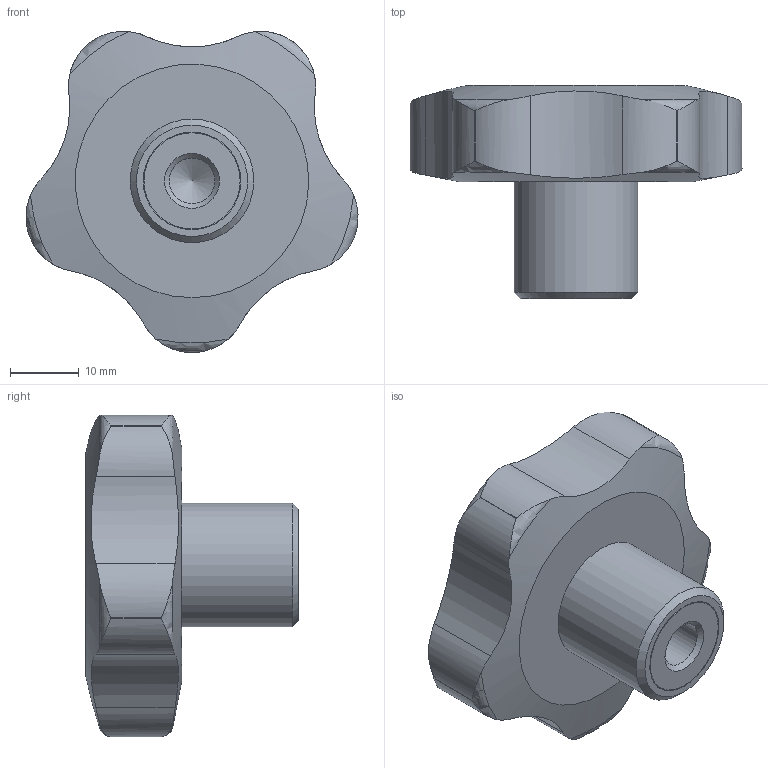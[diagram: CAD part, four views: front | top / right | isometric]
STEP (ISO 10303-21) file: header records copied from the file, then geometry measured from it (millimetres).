
FILE_DESCRIPTION( ( 'STEP AP203' ), '1' );
FILE_NAME( 'C:/Temp/Ganter_Step_05_03_2020/data/2_2/gn_5337_4/gn_5337_4_b/Star knob GN 5337.4-50-M8.stp', '2020-03-05T12:09:34', ( 'License CC BY-ND 4.0' ), ( 'CADENAS' ), ' ', 'PARTsolutions', ' ' );
FILE_SCHEMA( ( 'CONFIG_CONTROL_DESIGN' ) );
Length unit declared in the file: millimetre
Products named in the file (1): _Star knob GN 5337.4-50-M8
Bounding box: 48.33 x 31 x 46.75 mm (x, y, z)
Volume: 23817.1 mm3; surface area: 6239.6 mm2
Topology: 1 solids, 1 shells, 44 faces, 117 edges, 77 vertices
Faces by surface type: cylinder 24, torus 10, cone 4, plane 4, bspline 1, sphere 1
Full cylindrical faces by diameter (mm): 6.647 x1, 14 x1, 14.2 x1, 18 x1
Entity records: 1979 total; most frequent: CARTESIAN_POINT 975, ORIENTED_EDGE 204, DIRECTION 172, EDGE_CURVE 102, AXIS2_PLACEMENT_3D 76, VERTEX_POINT 75, EDGE_LOOP 56, B_SPLINE_CURVE_WITH_KNOTS 50
